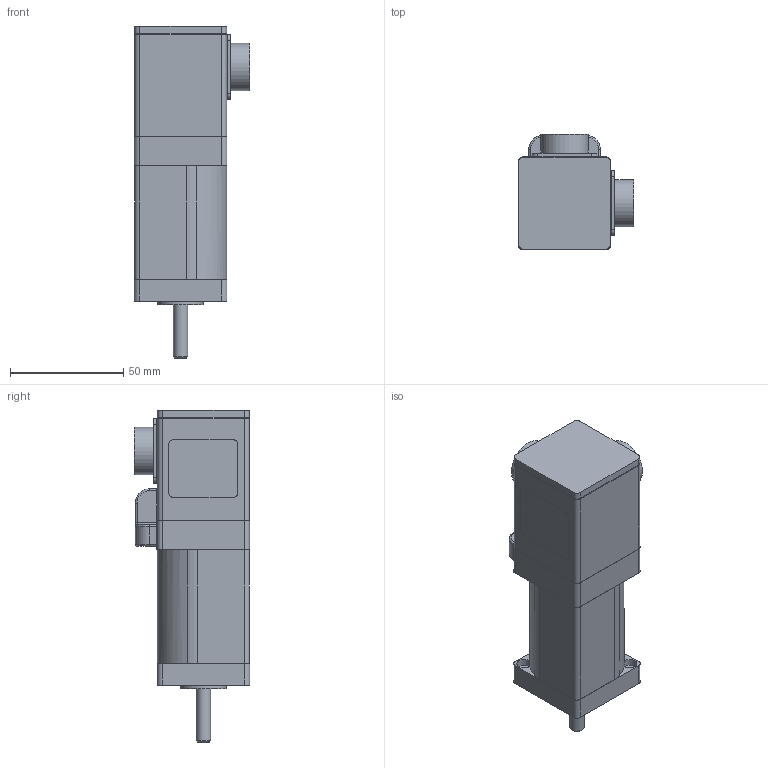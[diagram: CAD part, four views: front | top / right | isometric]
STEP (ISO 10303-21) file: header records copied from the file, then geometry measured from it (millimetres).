
FILE_DESCRIPTION((''),'2;1');
FILE_NAME('C:\CAD_work\Dummy_Modeling_Project_02-12-05\3D MODELS\BE164_MS_TQ.stp','2005-12-20T15:29:47',('jevans'),(''),'Autodesk Inventor 10','Autodesk Inventor 10','');
FILE_SCHEMA(('AUTOMOTIVE_DESIGN { 1 0 10303 214 1 1 1 1 }'));
Length unit declared in the file: inch
Products named in the file (1): BE16_MS_TQ
Bounding box: 50.98 x 50.98 x 146.63 mm (x, y, z)
Volume: 203896.5 mm3; surface area: 29652.8 mm2
Topology: 1 solids, 1 shells, 257 faces, 602 edges, 372 vertices
Faces by surface type: cylinder 119, plane 106, sphere 12, torus 9, bspline 9, cone 2
Full cylindrical faces by diameter (mm): 1.7 x2, 1.905 x26, 2.54 x4, 6.35 x1, 8.992 x1, 11.176 x1, 15.697 x1, 17 x1, 17.018 x2, 17.653 x1, 18.009 x1, 20.015 x1, 20.904 x2
Entity records: 6943 total; most frequent: DIRECTION 1270, CARTESIAN_POINT 1248, ORIENTED_EDGE 1020, AXIS2_PLACEMENT_3D 511, EDGE_CURVE 510, EDGE_LOOP 366, VERTEX_POINT 356, CIRCLE 262
